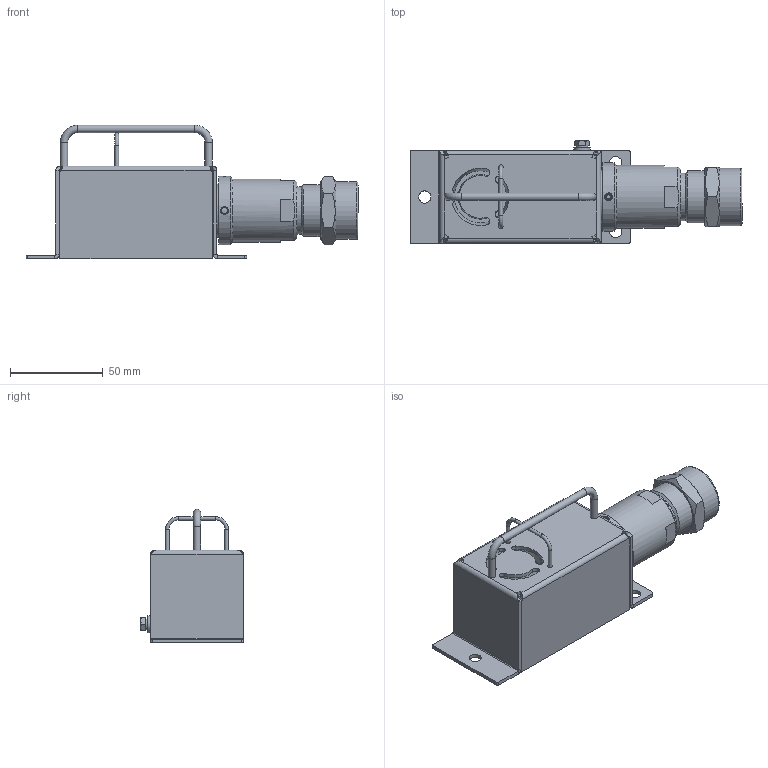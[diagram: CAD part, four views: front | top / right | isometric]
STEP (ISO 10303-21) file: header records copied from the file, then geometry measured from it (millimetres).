
FILE_DESCRIPTION(('STEP AP203'), '1');
FILE_NAME('ﾂﾑ-6ﾌ.stp', '2020-12-10T11:24:54', ($), ($), 'ASCON STEP Converter 1.3', 'Kompas 3D', '');
FILE_SCHEMA(('CONFIG_CONTROL_DESIGN','SUPPORT_RESOURCE_SCHEMA'));
Length unit declared in the file: millimetre
Products named in the file (1): 2
Bounding box: 179.05 x 55.4 x 72 mm (x, y, z)
Volume: 101979.3 mm3; surface area: 77267.5 mm2
Topology: 2 solids, 4 shells, 416 faces, 985 edges, 609 vertices
Faces by surface type: plane 233, cylinder 117, cone 42, bspline 13, torus 9, sphere 2
Full cylindrical faces by diameter (mm): 1.6 x2, 2 x5, 2.013 x2, 2.2 x2, 2.5 x8, 3 x4, 3.24 x3, 3.4 x2, 4 x6, 4.3 x1, 4.5 x3, 5 x2, 6.6 x3, 8 x2, 8.5 x1, 9 x1, 12 x1, 13 x1, 15 x1, 19 x1, 20 x1, 23.5 x1, 24 x2, 25 x1, 25.8 x1, 26 x1, 26.376 x1, 27.8 x2, 28 x1, 28.5 x1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
Entity records: 16022 total; most frequent: CARTESIAN_POINT 6273, DIRECTION 2004, ORIENTED_EDGE 1966, EDGE_CURVE 983, AXIS2_PLACEMENT_3D 725, VERTEX_POINT 609, LINE 554, VECTOR 554
